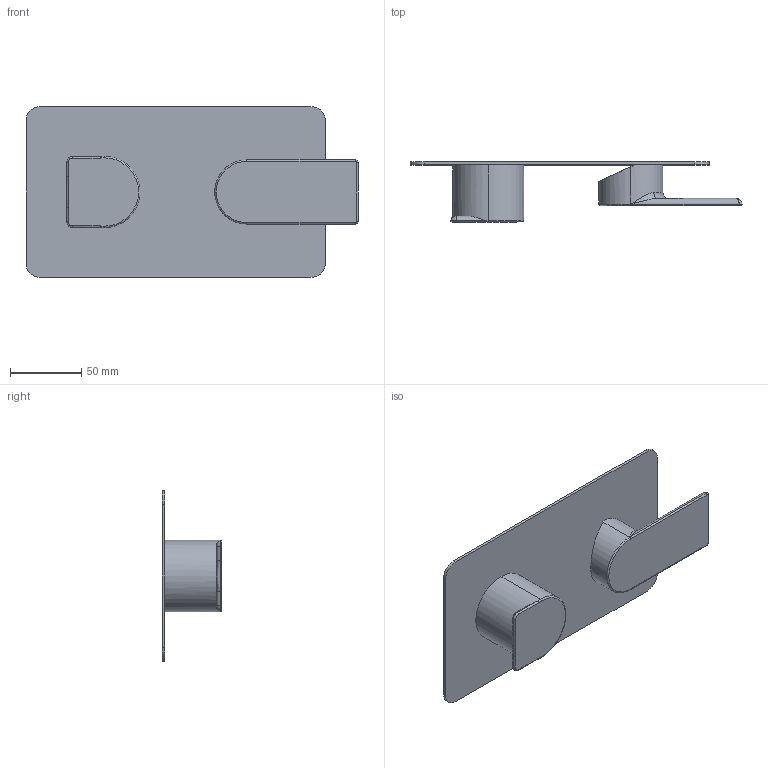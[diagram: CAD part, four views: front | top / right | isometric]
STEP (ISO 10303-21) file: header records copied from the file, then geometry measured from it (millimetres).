
FILE_DESCRIPTION (( 'STEP AP214' ), '1' );
FILE_NAME ('80225310 x architetti.STEP', '2024-06-20T07:51:20', ( '' ), ( '' ), 'SwSTEP 2.0', 'SolidWorks 2020', '' );
FILE_SCHEMA (( 'AUTOMOTIVE_DESIGN' ));
Length unit declared in the file: millimetre
Products named in the file (1): 80225310 x architetti
Bounding box: 233 x 42 x 120 mm (x, y, z)
Volume: 176507 mm3; surface area: 71487.3 mm2
Topology: 1 solids, 1 shells, 66 faces, 161 edges, 95 vertices
Faces by surface type: cylinder 29, plane 14, torus 8, bspline 8, cone 5, sphere 2
Entity records: 3468 total; most frequent: CARTESIAN_POINT 1273, ORIENTED_EDGE 310, DIRECTION 305, EDGE_CURVE 155, AXIS2_PLACEMENT_3D 125, VERTEX_POINT 95, EDGE_LOOP 70, UNCERTAINTY_MEASURE_WITH_UNIT 67
